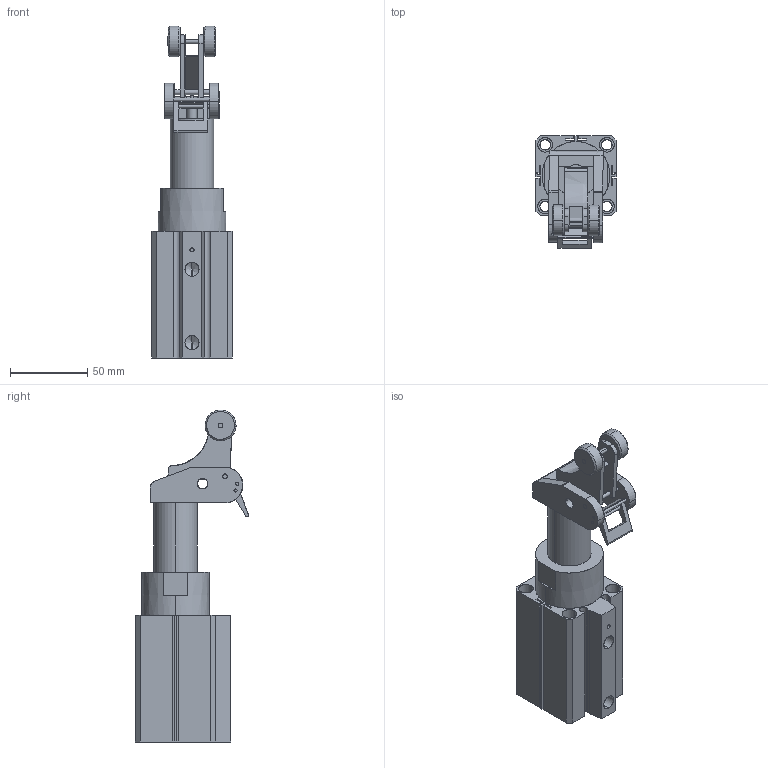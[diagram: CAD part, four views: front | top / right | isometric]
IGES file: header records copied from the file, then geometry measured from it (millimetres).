
Start section: SolidWorks IGES file using analytic representation for surfaces
Global section: file name: F:\elod\elod 40\course 30\elod40-30.IGS; native system: SolidWorks 2010; preprocessor: SolidWorks 2010; author: 1EDPI; date: 110512.102322; units: millimetre
Bounding box: 52 x 73.42 x 215.39 mm (x, y, z)
Surface area: 67225.7 mm2 (no closed solid volume)
Topology: 0 solids, 0 shells, 239 faces, 4026 edges, 4020 vertices
Faces by surface type: revolution 120, bspline 119
